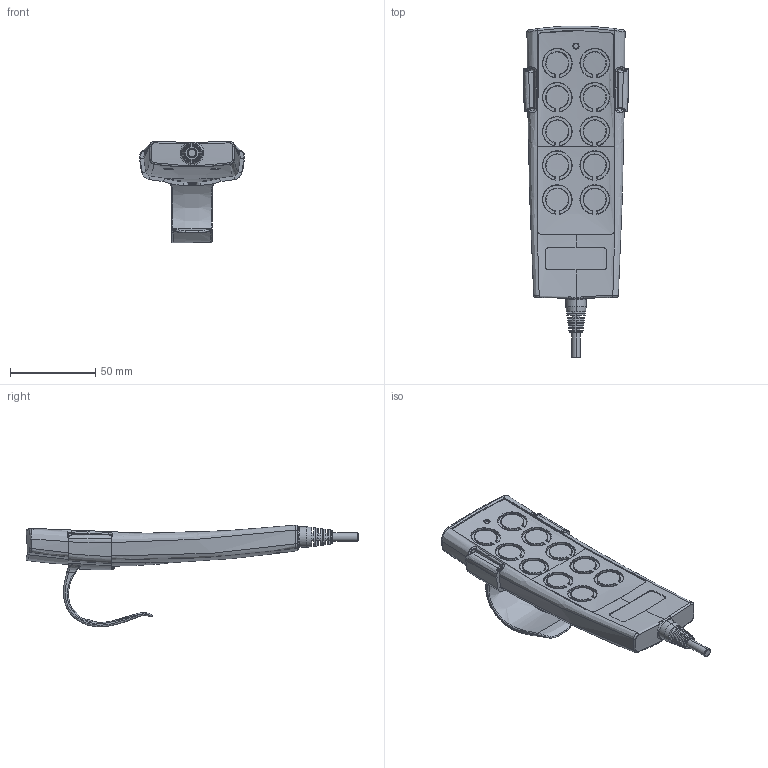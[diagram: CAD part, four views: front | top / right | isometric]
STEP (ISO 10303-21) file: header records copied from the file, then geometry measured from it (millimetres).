
FILE_DESCRIPTION (( 'STEP AP203' ), '1' );
FILE_NAME ('3D-TH7-10Buttons-A.STEP', '2010-03-17T03:03:06', ( 'Jeremy' ), ( 'Microsoft' ), 'SwSTEP 2.0', 'SolidWorks 2005179', '' );
FILE_SCHEMA (( 'CONFIG_CONTROL_DESIGN' ));
Length unit declared in the file: millimetre
Products named in the file (1): 3D-TH7-10Buttons-A
Bounding box: 61.55 x 194.6 x 59.61 mm (x, y, z)
Volume: 139617.9 mm3; surface area: 40680.7 mm2
Topology: 1 solids, 14 shells, 738 faces, 1963 edges, 1252 vertices
Faces by surface type: bspline 303, cylinder 179, plane 161, torus 89, cone 6
Entity records: 199214 total; most frequent: CARTESIAN_POINT 183942, ORIENTED_EDGE 3910, EDGE_CURVE 1955, DIRECTION 1932, VERTEX_POINT 1252, B_SPLINE_CURVE_WITH_KNOTS 1230, AXIS2_PLACEMENT_3D 772, EDGE_LOOP 769
